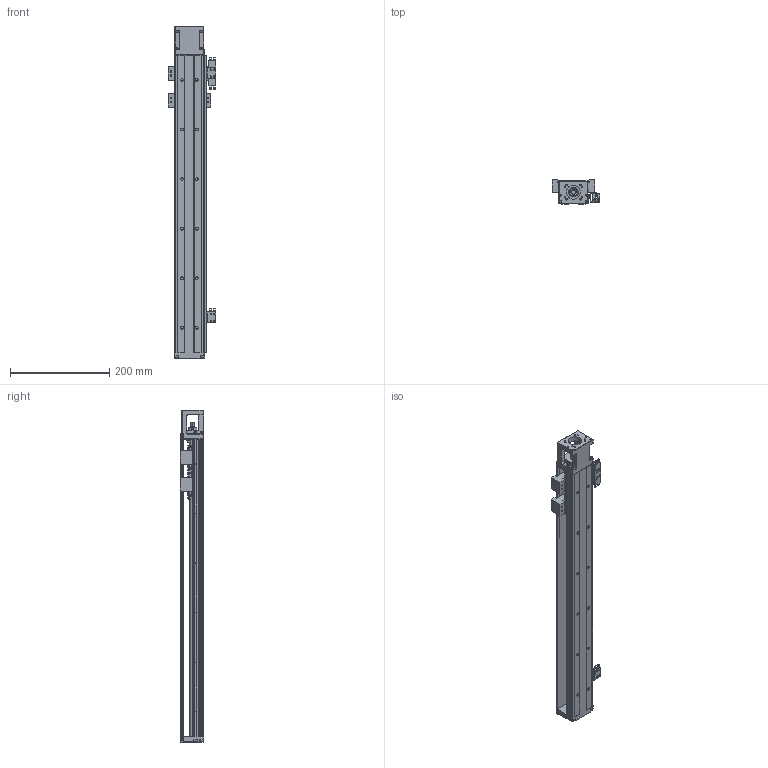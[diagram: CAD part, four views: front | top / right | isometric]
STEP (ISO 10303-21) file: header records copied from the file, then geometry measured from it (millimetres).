
FILE_DESCRIPTION (( 'STEP AP214' ), '1' );
FILE_NAME ('SFKK60-600S2-F0C.STEP', '2022-05-03T02:27:14', ( '微软用户' ), ( '微软中国' ), 'SwSTEP 2.0', 'SolidWorks 2018', '' );
FILE_SCHEMA (( 'AUTOMOTIVE_DESIGN' ));
Length unit declared in the file: millimetre
Products named in the file (9): SFKK-60-CU_600; 开关固定座：KK-674S2-F; SFKK60C-S1-C; SFKK60-F0_600; SFKK60-LR 憤癹寢耋_600; 极限轨道与开关固定座组合_600; 带盖挡光片：KK-60-S2-D1; SX674嫖萇羲壽; SFKK60-600S2-F0C
Assembly tree (12 placements, depth 3):
  SFKK60-600S2-F0C
    SFKK60-F0_600
    SFKK60C-S1-C  x2
    极限轨道与开关固定座组合_600
      SFKK60-LR 憤癹寢耋_600
      开关固定座：KK-674S2-F  x2
    SX674嫖萇羲壽  x3
    SFKK-60-CU_600
    带盖挡光片：KK-60-S2-D1
Bounding box: 96.4 x 48 x 670 mm (x, y, z)
Volume: 810629.9 mm3; surface area: 351825.8 mm2
Topology: 54 solids, 64 shells, 2640 faces, 6942 edges, 4483 vertices
Faces by surface type: plane 1377, cylinder 961, cone 176, torus 63, bspline 40, sphere 23
Entity records: 74033 total; most frequent: CARTESIAN_POINT 18363, DIRECTION 9090, ORIENTED_EDGE 8804, EDGE_CURVE 4402, AXIS2_PLACEMENT_3D 3198, VERTEX_POINT 2851, VECTOR 2694, LINE 2694
